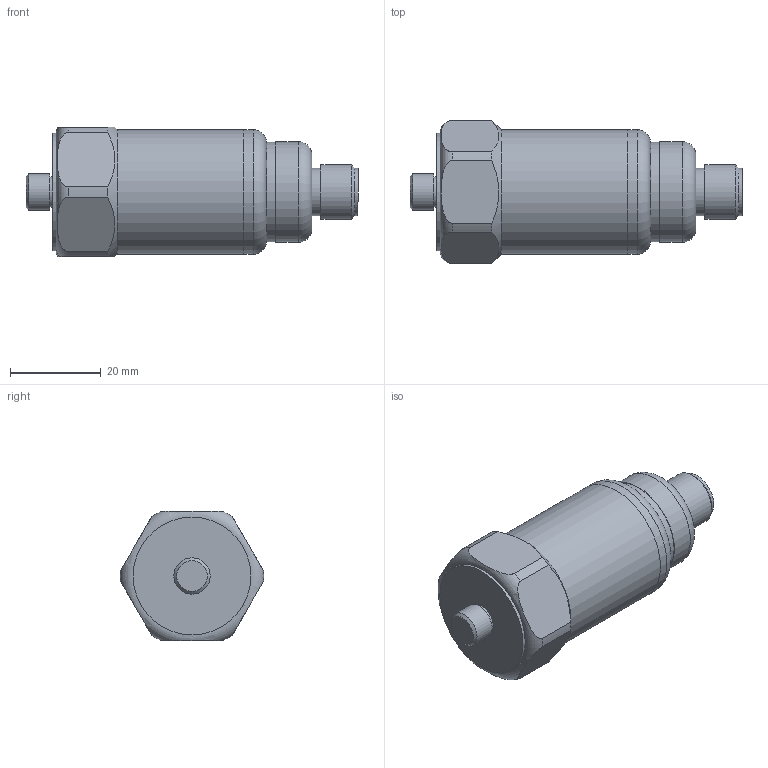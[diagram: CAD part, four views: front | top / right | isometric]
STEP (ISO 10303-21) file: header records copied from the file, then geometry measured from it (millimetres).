
FILE_DESCRIPTION(/* description */ (''),/* implementation_level */ '2;1');
FILE_NAME(/* name */ 'Z:\Engineering\Drawings\3D Library\Assemblies\Website\420 Velocity\HS-420XXX5408.stp',/* time_stamp */ '2023-05-03T13:13:14+01:00',/* author */ ('Ricardo.Peneda'),/* organization */ (''),/* preprocessor_version */ 'ST-DEVELOPER v18.1',/* originating_system */ 'Autodesk Inventor 2021',/* authorisation */ '');
FILE_SCHEMA (('AUTOMOTIVE_DESIGN { 1 0 10303 214 3 1 1 }'));
Length unit declared in the file: inch
Products named in the file (1): HS-420XXX5408_Shrinkwrap_1
Bounding box: 73.34 x 31.69 x 28.5 mm (x, y, z)
Volume: 14854.9 mm3; surface area: 11940 mm2
Topology: 4 solids, 4 shells, 68 faces, 175 edges, 130 vertices
Faces by surface type: plane 29, cylinder 29, cone 6, torus 4
Full cylindrical faces by diameter (mm): 5 x1, 6.3 x1, 6.35 x1, 6.8 x1, 7 x1, 7.5 x1, 8 x1, 9.4 x2, 10.496 x1, 10.5 x1, 12 x1, 18 x1, 19.95 x1, 20 x1, 22 x1, 22.2 x1, 23.3 x1, 25.3 x2, 26 x1, 27.5 x2
Entity records: 2422 total; most frequent: CARTESIAN_POINT 520, DIRECTION 419, ORIENTED_EDGE 350, AXIS2_PLACEMENT_3D 189, EDGE_CURVE 175, VERTEX_POINT 130, CIRCLE 120, EDGE_LOOP 85
